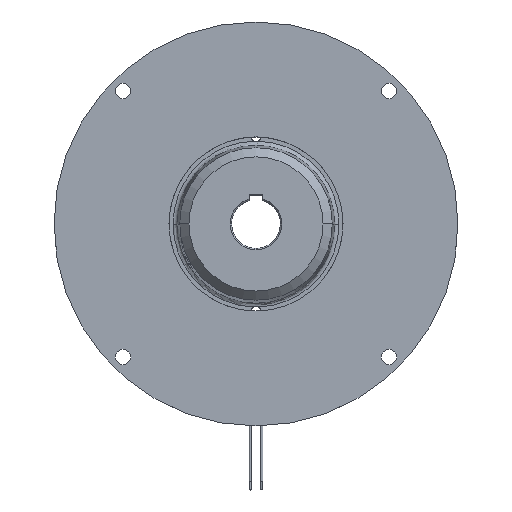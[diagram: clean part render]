
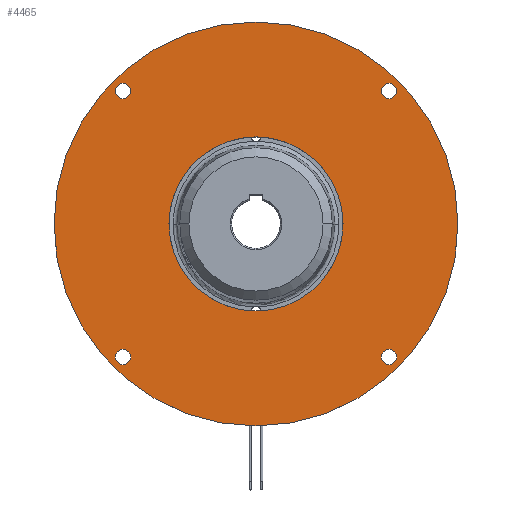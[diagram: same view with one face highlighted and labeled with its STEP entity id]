
A CAD part, top view. The second image highlights one B-rep face of the part: STEP entity #4465.
In plain terms, the highlighted planar face has unit normal (0, 0, 1).
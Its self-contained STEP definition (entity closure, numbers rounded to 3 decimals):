
#12 = EDGE_LOOP ( 'NONE', ( #3076, #2581 ) ) ;
#70 = DIRECTION ( 'NONE',  ( 0., 0., -1. ) ) ;
#85 = CARTESIAN_POINT ( 'NONE',  ( 0., 145., 0. ) ) ;
#102 = VERTEX_POINT ( 'NONE', #3129 ) ;
#107 = AXIS2_PLACEMENT_3D ( 'NONE', #8979, #8072, #6474 ) ;
#295 = VERTEX_POINT ( 'NONE', #2650 ) ;
#388 = EDGE_LOOP ( 'NONE', ( #7661, #5306 ) ) ;
#409 = ORIENTED_EDGE ( 'NONE', *, *, #8727, .T. ) ;
#566 = CIRCLE ( 'NONE', #6949, 5.5 ) ;
#597 = CARTESIAN_POINT ( 'NONE',  ( -89.959, 95.459, 0. ) ) ;
#672 = DIRECTION ( 'NONE',  ( 0., 0., -1. ) ) ;
#708 = EDGE_CURVE ( 'NONE', #3855, #102, #4594, .T. ) ;
#724 = EDGE_LOOP ( 'NONE', ( #8500, #409 ) ) ;
#753 = FACE_BOUND ( 'NONE', #724, .T. ) ;
#873 = VERTEX_POINT ( 'NONE', #7493 ) ;
#1143 = AXIS2_PLACEMENT_3D ( 'NONE', #2847, #6736, #9239 ) ;
#1357 = CIRCLE ( 'NONE', #1528, 145. ) ;
#1453 = CIRCLE ( 'NONE', #6889, 5.5 ) ;
#1528 = AXIS2_PLACEMENT_3D ( 'NONE', #8293, #7722, #2076 ) ;
#1662 = CARTESIAN_POINT ( 'NONE',  ( 0., 0., 0. ) ) ;
#1717 = DIRECTION ( 'NONE',  ( -1., 0., 0. ) ) ;
#1780 = DIRECTION ( 'NONE',  ( -1., 0., 0. ) ) ;
#1844 = AXIS2_PLACEMENT_3D ( 'NONE', #9383, #8498, #7592 ) ;
#2076 = DIRECTION ( 'NONE',  ( -1., 0., 0. ) ) ;
#2262 = CARTESIAN_POINT ( 'NONE',  ( 95.459, -95.459, 0. ) ) ;
#2297 = FACE_OUTER_BOUND ( 'NONE', #4462, .T. ) ;
#2316 = ORIENTED_EDGE ( 'NONE', *, *, #7688, .T. ) ;
#2457 = PLANE ( 'NONE',  #3231 ) ;
#2460 = VERTEX_POINT ( 'NONE', #8759 ) ;
#2548 = DIRECTION ( 'NONE',  ( 0., 0., -1. ) ) ;
#2581 = ORIENTED_EDGE ( 'NONE', *, *, #8778, .T. ) ;
#2650 = CARTESIAN_POINT ( 'NONE',  ( -89.959, -95.459, 0. ) ) ;
#2697 = DIRECTION ( 'NONE',  ( -1., 0., 0. ) ) ;
#2796 = AXIS2_PLACEMENT_3D ( 'NONE', #6097, #5347, #10067 ) ;
#2847 = CARTESIAN_POINT ( 'NONE',  ( 0., 0., 0. ) ) ;
#2906 = CIRCLE ( 'NONE', #8955, 5.5 ) ;
#2927 = ORIENTED_EDGE ( 'NONE', *, *, #8728, .T. ) ;
#2992 = DIRECTION ( 'NONE',  ( 0., 0., -1. ) ) ;
#3076 = ORIENTED_EDGE ( 'NONE', *, *, #4776, .T. ) ;
#3129 = CARTESIAN_POINT ( 'NONE',  ( -100.959, 95.459, 0. ) ) ;
#3207 = DIRECTION ( 'NONE',  ( -1., 0., 0. ) ) ;
#3219 = ORIENTED_EDGE ( 'NONE', *, *, #3801, .F. ) ;
#3231 = AXIS2_PLACEMENT_3D ( 'NONE', #85, #9424, #1780 ) ;
#3752 = DIRECTION ( 'NONE',  ( -1., 0., 0. ) ) ;
#3801 = EDGE_CURVE ( 'NONE', #8311, #8339, #1357, .T. ) ;
#3813 = CIRCLE ( 'NONE', #1844, 5.5 ) ;
#3855 = VERTEX_POINT ( 'NONE', #597 ) ;
#3910 = EDGE_CURVE ( 'NONE', #8428, #6901, #566, .T. ) ;
#3931 = VERTEX_POINT ( 'NONE', #7109 ) ;
#3975 = DIRECTION ( 'NONE',  ( 0., 0., -1. ) ) ;
#4039 = CIRCLE ( 'NONE', #4370, 5.5 ) ;
#4247 = CARTESIAN_POINT ( 'NONE',  ( -62.5, 0., 0. ) ) ;
#4370 = AXIS2_PLACEMENT_3D ( 'NONE', #4647, #2548, #3207 ) ;
#4462 = EDGE_LOOP ( 'NONE', ( #3219, #6007 ) ) ;
#4465 = ADVANCED_FACE ( 'NONE', ( #2297, #9897, #5423, #4659, #7787, #753 ), #2457, .F. ) ;
#4543 = CIRCLE ( 'NONE', #107, 5.5 ) ;
#4594 = CIRCLE ( 'NONE', #5404, 5.5 ) ;
#4595 = CARTESIAN_POINT ( 'NONE',  ( 145., 0., 0. ) ) ;
#4647 = CARTESIAN_POINT ( 'NONE',  ( -95.459, -95.459, 0. ) ) ;
#4659 = FACE_BOUND ( 'NONE', #7906, .T. ) ;
#4776 = EDGE_CURVE ( 'NONE', #873, #295, #4039, .T. ) ;
#5110 = AXIS2_PLACEMENT_3D ( 'NONE', #8934, #6787, #2697 ) ;
#5196 = EDGE_CURVE ( 'NONE', #102, #3855, #4543, .T. ) ;
#5203 = VERTEX_POINT ( 'NONE', #5697 ) ;
#5306 = ORIENTED_EDGE ( 'NONE', *, *, #708, .T. ) ;
#5347 = DIRECTION ( 'NONE',  ( 0., 0., -1. ) ) ;
#5404 = AXIS2_PLACEMENT_3D ( 'NONE', #8766, #7851, #7088 ) ;
#5423 = FACE_BOUND ( 'NONE', #12, .T. ) ;
#5512 = CARTESIAN_POINT ( 'NONE',  ( 95.459, 95.459, 0. ) ) ;
#5570 = CIRCLE ( 'NONE', #1143, 62.5 ) ;
#5697 = CARTESIAN_POINT ( 'NONE',  ( 89.959, -95.459, 0. ) ) ;
#5884 = CIRCLE ( 'NONE', #2796, 5.5 ) ;
#5922 = EDGE_CURVE ( 'NONE', #6020, #3931, #6342, .T. ) ;
#6007 = ORIENTED_EDGE ( 'NONE', *, *, #10003, .F. ) ;
#6020 = VERTEX_POINT ( 'NONE', #4247 ) ;
#6097 = CARTESIAN_POINT ( 'NONE',  ( -95.459, -95.459, 0. ) ) ;
#6342 = CIRCLE ( 'NONE', #9800, 62.5 ) ;
#6402 = EDGE_CURVE ( 'NONE', #5203, #2460, #2906, .T. ) ;
#6474 = DIRECTION ( 'NONE',  ( -1., 0., 0. ) ) ;
#6507 = CARTESIAN_POINT ( 'NONE',  ( 89.959, 95.459, 0. ) ) ;
#6736 = DIRECTION ( 'NONE',  ( 0., 0., -1. ) ) ;
#6787 = DIRECTION ( 'NONE',  ( 0., 0., -1. ) ) ;
#6889 = AXIS2_PLACEMENT_3D ( 'NONE', #6891, #2992, #9084 ) ;
#6891 = CARTESIAN_POINT ( 'NONE',  ( 95.459, -95.459, 0. ) ) ;
#6901 = VERTEX_POINT ( 'NONE', #6507 ) ;
#6949 = AXIS2_PLACEMENT_3D ( 'NONE', #5512, #70, #8638 ) ;
#7080 = CIRCLE ( 'NONE', #5110, 145. ) ;
#7088 = DIRECTION ( 'NONE',  ( -1., 0., 0. ) ) ;
#7109 = CARTESIAN_POINT ( 'NONE',  ( 62.5, 0., 0. ) ) ;
#7493 = CARTESIAN_POINT ( 'NONE',  ( -100.959, -95.459, 0. ) ) ;
#7522 = ORIENTED_EDGE ( 'NONE', *, *, #3910, .T. ) ;
#7592 = DIRECTION ( 'NONE',  ( -1., 0., 0. ) ) ;
#7661 = ORIENTED_EDGE ( 'NONE', *, *, #5196, .T. ) ;
#7688 = EDGE_CURVE ( 'NONE', #6901, #8428, #3813, .T. ) ;
#7722 = DIRECTION ( 'NONE',  ( 0., 0., -1. ) ) ;
#7787 = FACE_BOUND ( 'NONE', #9233, .T. ) ;
#7851 = DIRECTION ( 'NONE',  ( 0., 0., -1. ) ) ;
#7906 = EDGE_LOOP ( 'NONE', ( #10021, #2927 ) ) ;
#8072 = DIRECTION ( 'NONE',  ( 0., 0., -1. ) ) ;
#8293 = CARTESIAN_POINT ( 'NONE',  ( 0., 0., 0. ) ) ;
#8311 = VERTEX_POINT ( 'NONE', #10026 ) ;
#8339 = VERTEX_POINT ( 'NONE', #4595 ) ;
#8428 = VERTEX_POINT ( 'NONE', #8785 ) ;
#8498 = DIRECTION ( 'NONE',  ( 0., 0., -1. ) ) ;
#8500 = ORIENTED_EDGE ( 'NONE', *, *, #5922, .T. ) ;
#8638 = DIRECTION ( 'NONE',  ( -1., 0., 0. ) ) ;
#8727 = EDGE_CURVE ( 'NONE', #3931, #6020, #5570, .T. ) ;
#8728 = EDGE_CURVE ( 'NONE', #2460, #5203, #1453, .T. ) ;
#8759 = CARTESIAN_POINT ( 'NONE',  ( 100.959, -95.459, 0. ) ) ;
#8766 = CARTESIAN_POINT ( 'NONE',  ( -95.459, 95.459, 0. ) ) ;
#8778 = EDGE_CURVE ( 'NONE', #295, #873, #5884, .T. ) ;
#8785 = CARTESIAN_POINT ( 'NONE',  ( 100.959, 95.459, 0. ) ) ;
#8934 = CARTESIAN_POINT ( 'NONE',  ( 0., 0., 0. ) ) ;
#8955 = AXIS2_PLACEMENT_3D ( 'NONE', #2262, #672, #3752 ) ;
#8979 = CARTESIAN_POINT ( 'NONE',  ( -95.459, 95.459, 0. ) ) ;
#9084 = DIRECTION ( 'NONE',  ( -1., 0., 0. ) ) ;
#9233 = EDGE_LOOP ( 'NONE', ( #2316, #7522 ) ) ;
#9239 = DIRECTION ( 'NONE',  ( -1., 0., 0. ) ) ;
#9383 = CARTESIAN_POINT ( 'NONE',  ( 95.459, 95.459, 0. ) ) ;
#9424 = DIRECTION ( 'NONE',  ( 0., 0., -1. ) ) ;
#9800 = AXIS2_PLACEMENT_3D ( 'NONE', #1662, #3975, #1717 ) ;
#9897 = FACE_BOUND ( 'NONE', #388, .T. ) ;
#10003 = EDGE_CURVE ( 'NONE', #8339, #8311, #7080, .T. ) ;
#10021 = ORIENTED_EDGE ( 'NONE', *, *, #6402, .T. ) ;
#10026 = CARTESIAN_POINT ( 'NONE',  ( -145., 0., 0. ) ) ;
#10067 = DIRECTION ( 'NONE',  ( -1., 0., 0. ) ) ;
